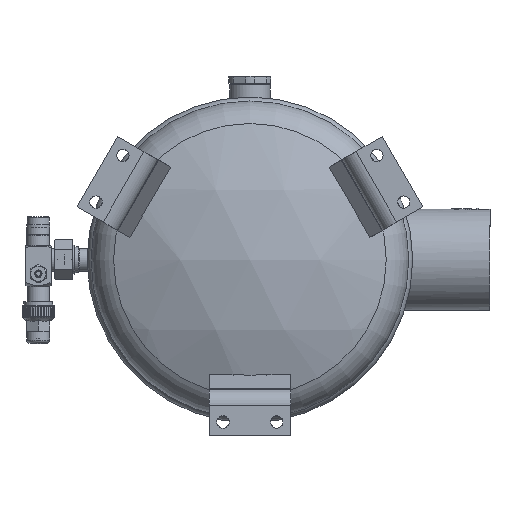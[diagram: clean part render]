
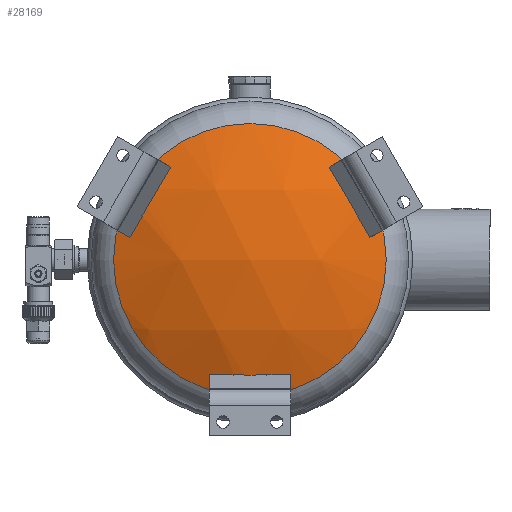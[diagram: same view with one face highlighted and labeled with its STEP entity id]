
A CAD part, front view. The second image highlights one B-rep face of the part: STEP entity #28169.
In plain terms, the highlighted spherical face has radius 279 mm.
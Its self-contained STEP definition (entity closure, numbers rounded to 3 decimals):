
#628=SPHERICAL_SURFACE('',#30274,279.);
#5319=FACE_BOUND('',#8606,.T.);
#5320=FACE_BOUND('',#8607,.T.);
#5321=FACE_BOUND('',#8608,.T.);
#6824=FACE_OUTER_BOUND('',#8605,.T.);
#8605=EDGE_LOOP('',(#19718));
#8606=EDGE_LOOP('',(#19719,#19720,#19721,#19722));
#8607=EDGE_LOOP('',(#19723,#19724,#19725,#19726));
#8608=EDGE_LOOP('',(#19727,#19728,#19729,#19730));
#10600=CIRCLE('',#30275,117.235);
#10601=CIRCLE('',#30276,278.939);
#10602=CIRCLE('',#30277,14.846);
#10603=CIRCLE('',#30278,278.991);
#10604=CIRCLE('',#30279,14.846);
#10605=CIRCLE('',#30280,278.939);
#10606=CIRCLE('',#30281,14.846);
#10607=CIRCLE('',#30282,278.991);
#10608=CIRCLE('',#30283,14.846);
#10609=CIRCLE('',#30284,278.939);
#10610=CIRCLE('',#30285,14.846);
#10611=CIRCLE('',#30286,278.991);
#10612=CIRCLE('',#30287,14.846);
#12194=VERTEX_POINT('',#45300);
#12195=VERTEX_POINT('',#45302);
#12196=VERTEX_POINT('',#45303);
#12197=VERTEX_POINT('',#45305);
#12198=VERTEX_POINT('',#45307);
#12199=VERTEX_POINT('',#45310);
#12200=VERTEX_POINT('',#45311);
#12201=VERTEX_POINT('',#45313);
#12202=VERTEX_POINT('',#45315);
#12203=VERTEX_POINT('',#45318);
#12204=VERTEX_POINT('',#45319);
#12205=VERTEX_POINT('',#45321);
#12206=VERTEX_POINT('',#45323);
#15184=EDGE_CURVE('',#12194,#12194,#10600,.T.);
#15185=EDGE_CURVE('',#12195,#12196,#10601,.T.);
#15186=EDGE_CURVE('',#12196,#12197,#10602,.T.);
#15187=EDGE_CURVE('',#12197,#12198,#10603,.T.);
#15188=EDGE_CURVE('',#12198,#12195,#10604,.T.);
#15189=EDGE_CURVE('',#12199,#12200,#10605,.T.);
#15190=EDGE_CURVE('',#12200,#12201,#10606,.T.);
#15191=EDGE_CURVE('',#12201,#12202,#10607,.T.);
#15192=EDGE_CURVE('',#12202,#12199,#10608,.T.);
#15193=EDGE_CURVE('',#12203,#12204,#10609,.T.);
#15194=EDGE_CURVE('',#12204,#12205,#10610,.T.);
#15195=EDGE_CURVE('',#12205,#12206,#10611,.T.);
#15196=EDGE_CURVE('',#12206,#12203,#10612,.T.);
#19718=ORIENTED_EDGE('',*,*,#15184,.T.);
#19719=ORIENTED_EDGE('',*,*,#15185,.T.);
#19720=ORIENTED_EDGE('',*,*,#15186,.T.);
#19721=ORIENTED_EDGE('',*,*,#15187,.T.);
#19722=ORIENTED_EDGE('',*,*,#15188,.T.);
#19723=ORIENTED_EDGE('',*,*,#15189,.T.);
#19724=ORIENTED_EDGE('',*,*,#15190,.T.);
#19725=ORIENTED_EDGE('',*,*,#15191,.T.);
#19726=ORIENTED_EDGE('',*,*,#15192,.T.);
#19727=ORIENTED_EDGE('',*,*,#15193,.T.);
#19728=ORIENTED_EDGE('',*,*,#15194,.T.);
#19729=ORIENTED_EDGE('',*,*,#15195,.T.);
#19730=ORIENTED_EDGE('',*,*,#15196,.T.);
#28169=ADVANCED_FACE('',(#6824,#5319,#5320,#5321),#628,.T.);
#30274=AXIS2_PLACEMENT_3D('',#45299,#33412,#33413);
#30275=AXIS2_PLACEMENT_3D('',#45301,#33414,#33415);
#30276=AXIS2_PLACEMENT_3D('',#45304,#33416,#33417);
#30277=AXIS2_PLACEMENT_3D('',#45306,#33418,#33419);
#30278=AXIS2_PLACEMENT_3D('',#45308,#33420,#33421);
#30279=AXIS2_PLACEMENT_3D('',#45309,#33422,#33423);
#30280=AXIS2_PLACEMENT_3D('',#45312,#33424,#33425);
#30281=AXIS2_PLACEMENT_3D('',#45314,#33426,#33427);
#30282=AXIS2_PLACEMENT_3D('',#45316,#33428,#33429);
#30283=AXIS2_PLACEMENT_3D('',#45317,#33430,#33431);
#30284=AXIS2_PLACEMENT_3D('',#45320,#33432,#33433);
#30285=AXIS2_PLACEMENT_3D('',#45322,#33434,#33435);
#30286=AXIS2_PLACEMENT_3D('',#45324,#33436,#33437);
#30287=AXIS2_PLACEMENT_3D('',#45325,#33438,#33439);
#33412=DIRECTION('center_axis',(0.,0.,-1.));
#33413=DIRECTION('ref_axis',(-1.,0.,0.));
#33414=DIRECTION('center_axis',(0.,-1.,0.));
#33415=DIRECTION('ref_axis',(-1.,0.,0.));
#33416=DIRECTION('center_axis',(-0.803,-0.375,-0.464));
#33417=DIRECTION('ref_axis',(0.,-0.778,0.629));
#33418=DIRECTION('center_axis',(-0.324,0.927,-0.187));
#33419=DIRECTION('ref_axis',(0.,-0.198,-0.98));
#33420=DIRECTION('center_axis',(0.803,0.375,0.464));
#33421=DIRECTION('ref_axis',(0.,0.778,-0.629));
#33422=DIRECTION('center_axis',(-0.324,0.927,-0.187));
#33423=DIRECTION('ref_axis',(0.,-0.198,-0.98));
#33424=DIRECTION('center_axis',(0.803,-0.375,-0.464));
#33425=DIRECTION('ref_axis',(0.,-0.778,0.629));
#33426=DIRECTION('center_axis',(0.324,0.927,-0.187));
#33427=DIRECTION('ref_axis',(0.,-0.198,-0.98));
#33428=DIRECTION('center_axis',(-0.803,0.375,0.464));
#33429=DIRECTION('ref_axis',(0.,0.778,-0.629));
#33430=DIRECTION('center_axis',(0.324,0.927,-0.187));
#33431=DIRECTION('ref_axis',(0.,-0.198,-0.98));
#33432=DIRECTION('center_axis',(0.,-0.375,
0.927));
#33433=DIRECTION('ref_axis',(0.,0.927,0.375));
#33434=DIRECTION('center_axis',(0.,0.927,
0.375));
#33435=DIRECTION('ref_axis',(0.,0.375,-0.927));
#33436=DIRECTION('center_axis',(0.,0.375,
-0.927));
#33437=DIRECTION('ref_axis',(0.,-0.927,-0.375));
#33438=DIRECTION('center_axis',(0.,0.927,
0.375));
#33439=DIRECTION('ref_axis',(0.,0.375,-0.927));
#45299=CARTESIAN_POINT('Origin',(0.,191.807,
0.));
#45300=CARTESIAN_POINT('',(-117.235,-61.367,0.));
#45301=CARTESIAN_POINT('Origin',(0.,-61.367,
0.));
#45302=CARTESIAN_POINT('',(92.543,-68.69,37.658));
#45303=CARTESIAN_POINT('',(78.885,-68.69,61.316));
#45304=CARTESIAN_POINT('Origin',(-4.671,189.628,-2.697));
#45305=CARTESIAN_POINT('',(84.796,-65.693,65.913));
#45306=CARTESIAN_POINT('Origin',(90.385,-66.511,52.184));
#45307=CARTESIAN_POINT('',(99.48,-65.693,40.479));
#45308=CARTESIAN_POINT('Origin',(1.753,192.625,1.012));
#45309=CARTESIAN_POINT('Origin',(90.385,-66.511,52.184));
#45310=CARTESIAN_POINT('',(-78.885,-68.69,61.316));
#45311=CARTESIAN_POINT('',(-92.543,-68.69,37.658));
#45312=CARTESIAN_POINT('Origin',(4.671,189.628,-2.697));
#45313=CARTESIAN_POINT('',(-99.48,-65.693,40.479));
#45314=CARTESIAN_POINT('Origin',(-90.385,-66.511,52.184));
#45315=CARTESIAN_POINT('',(-84.796,-65.693,65.913));
#45316=CARTESIAN_POINT('Origin',(-1.753,192.625,1.012));
#45317=CARTESIAN_POINT('Origin',(-90.385,-66.511,52.184));
#45318=CARTESIAN_POINT('',(-13.658,-68.69,-98.974));
#45319=CARTESIAN_POINT('',(13.658,-68.69,-98.974));
#45320=CARTESIAN_POINT('Origin',(0.,189.628,
5.393));
#45321=CARTESIAN_POINT('',(14.684,-65.693,-106.391));
#45322=CARTESIAN_POINT('Origin',(0.,-66.511,
-104.367));
#45323=CARTESIAN_POINT('',(-14.684,-65.693,-106.391));
#45324=CARTESIAN_POINT('Origin',(0.,192.625,
-2.024));
#45325=CARTESIAN_POINT('Origin',(0.,-66.511,
-104.367));
